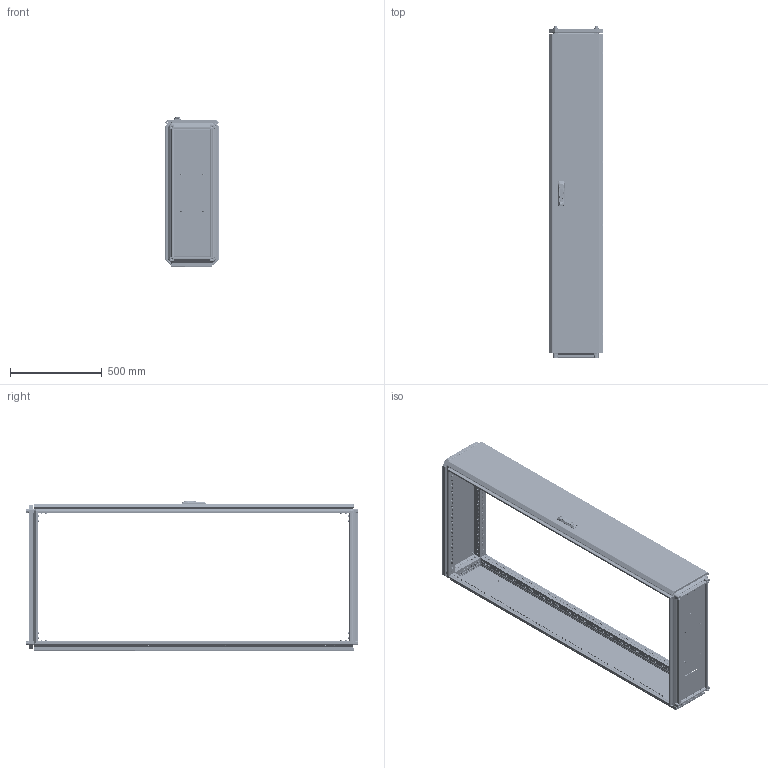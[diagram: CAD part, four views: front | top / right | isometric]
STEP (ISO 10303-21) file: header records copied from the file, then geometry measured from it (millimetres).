
FILE_DESCRIPTION (( 'STEP AP203' ), '1' );
FILE_NAME ('MA1.000.030818.10.00 AleSta1838 Øêàô AleSta 300õ800õ1800.STEP', '2024-08-23T07:23:34', ( '' ), ( '' ), 'SwSTEP 2.0', 'SolidWorks 2021', '' );
FILE_SCHEMA (( 'CONFIG_CONTROL_DESIGN' ));
Length unit declared in the file: millimetre
Products named in the file (50): Áîëò øåñòèãðàííûé Ì5õ12 DIN 933, êëàññ ïðî÷íîñòè 8.8, îöèíêîâàííàÿ ñòàëü; Âèíò ñàìîíàðåçàþùèé ñ ïîòàéíîé ãîëîâêîé Ì5x14 DIN 7500 M TORX, êëàññ ïðî÷íîñòè 8.8, îöèíêîâàííàÿ ñòàëü_Œ5å14; êðåïëåíèå_êðóãëîé_òÿãè_RG1020-1.stp; Âèíò_ðåçüáîâûäàâëèâàþùèé_Ì5õ12_DIN 7500E_00; MA1.200.060620.31.02 Ðåéêà íà äâåðü âåðòèêàëüíàÿ Â = 2000_‚=1800; MA1.101.060620.10.01 Ïîëîòíî êðûøè 600õ600_300x800; MA1.101.060620.20.02 Çàêðûòèå íèæíåé ïàíåëè 600õ600_300x800; Íàâåñêà íà êîðïóñ ïîä êëåïêó; MA1.200.060620.31.01 Ïîëîòíî äâåðè ñïëîøíîé 2000õ600_1800å300; MA1.101.060620.00.00 AleSta-RB66 Êîìïëåêò êðûøà è îñíîâàíèå_  300x800; MA1.101.060620.00.02 Ïðîôèëü ïîïåðå÷íûé ñâàðíîé_03 L=198 (˜=300); MA1.200.060620.11.01 Ïîëîòíî çàäíåé ïàíåëè 2000õ600_1800å300; MA1.000.030818.10.00 AleSta1838 Øêàô AleSta 300õ800õ1800; MA1.100.060620.00.01 Ñîåäèíèòåëü óãëîâîé_00; MA1.200.060620.11.00 Ïàíåëü çàäíÿÿ, äëÿ øêàôîâ AleSta, 2000x600_1800å300; 7380-2 ISO Âèíòû ñ ïîëóêðóãëîé ãîëîâêîé ñ ôëàíöåì ñ âíóòðåííèì øåñòèãðàííèêîì Ì4õ10; Ãàéêà ñàìîêîíòðÿùàÿñÿ ñ íåéëîíîâîé âñòàâêîé Ì6 DIN 985, êëàññ ïðî÷íîñòè 8, îöèíêîâàííàÿ ñòàëü_Œ6; Âèíò ñ âí. øåñòèãðàííèêîì M12 DIN912_•30; MS463-2-3(1); MA1.101.060620.00.02 Ïðîôèëü ïîïåðå÷íûé ñâàðíîé_02 L=698 (˜=800) ; MA1.101.060620.10.00 Êðûøà 600x600_300å800; MA1.200.060620.31.03 Ðåéêà íà äâåðü ãîðèçîíòàëüíàÿ Ø = 600_˜=300; MA1.102.060620.00.01 Ïðîôèëü âåðòèêàëüíûé ñâàðíîé_03 L=1698 (‚=1800); MA1.200.060620.31.05 Óãëîâîé óïîð äâåðíîé òÿãè; ﾇﾀﾊﾋﾅﾏﾊﾀ ﾃﾀﾅﾗﾍﾀﾟ ﾘﾅﾑﾒﾈﾃﾐﾀﾍﾍﾀﾟ ﾑ ﾓﾌﾅﾍﾜﾘﾅﾍﾍﾛﾌ ﾁﾎﾐﾒﾎﾌ M4 X 11 (0.5-2.5 ﾌﾌ) HEX U-S ﾖﾈﾍﾊ; MA1.102.060620.00.00 AleSta-VG2000 Ñòîéêè âåðòèêàëüíûå, Â=2000ìì  (4øò)_  300å800; MA1.200.060620.31.00 Äâåðü ñïëîøíàÿ äëÿ øêàôîâ ALESTA ÂõØ 2000õ600_1800å300; Ïåòëÿ íà äâåðü ï-îáðàçíàÿ; MA1.101.060620.20.01 Ïîëîòíî íèæíåé ïàíåëè 600õ600_300å800; äåðæàòåëü_êðóãëîé_òÿãèRG002-RG1010-2-i-RG1010-3-.stp; MA1.101.060620.20.00 Íèæíÿÿ ïàíåëü 600õ600_300å800; Øàéáà ñòîïîðíàÿ ñ íàðóæíûìè çóáöàìè SCHNORR, òèï VS öèíêîâûå õëîïüÿ Ì6 O6,4 ART 88121_Œ6; MA1.200.060620.31.04 ðèãåëü çàìêà äâåðè; Îñü ïåòëè 4õ52_‚¨­â A.M4x0,5x40 ƒŽ‘’ 11644-75; Øïèëüêà Ì6õ12_˜¯¨«ìª  Œ6å20; Âèíò ðåçüáîâûäàâëèâàþùèé Ì6õ12 DIN 7500E_Œ6å10; Øïèëüêà Ì6õ12_˜¯¨«ìª  Œ6å16; Ïðîáêà ïëàñòèêîâàÿ óíèâåðñàëüíàÿ ïîä îòâåðñòèå 4,5 ìì, ñåðèÿ ST, öâåò áåñöâåòíûé – ST4,5; ﾘ琺矜 01.019 ﾃﾎﾑﾒ11371-78_12; MA1.200.060620.10.00 AleSta-PR206  Ïàíåëü çàäíÿÿ, äëÿ øêàôîâ ALESTA, 2000 x 600_1800å300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
Assembly tree (329 placements, depth 4):
  MA1.000.030818.10.00 AleSta1838 Øêàô AleSta 300õ800õ1800
    MA1.101.060620.00.00 AleSta-RB66 Êîìïëåêò êðûøà è îñíîâàíèå_  300x800
      MA1.101.060620.00.02 Ïðîôèëü ïîïåðå÷íûé ñâàðíîé_02 L=698 (˜=800)   x4
      MA1.101.060620.00.02 Ïðîôèëü ïîïåðå÷íûé ñâàðíîé_03 L=198 (˜=300)  x4
      MA1.101.060620.10.00 Êðûøà 600x600_300å800
        MA1.101.060620.10.01 Ïîëîòíî êðûøè 600õ600_300x800
        Øïèëüêà Ì6õ12_˜¯¨«ìª  Œ6å12  x4
        Óïëîòíèòåëü ïàíåëè íèæíåé_300å800
      MA1.101.060620.20.00 Íèæíÿÿ ïàíåëü 600õ600_300å800
        MA1.101.060620.20.01 Ïîëîòíî íèæíåé ïàíåëè 600õ600_300å800
        ﾇﾀﾊﾋﾅﾏﾊﾀ ﾃﾀﾅﾗﾍﾀﾟ ﾘﾅﾑﾒﾈﾃﾐﾀﾍﾍﾀﾟ ﾑ ﾓﾌﾅﾍﾜﾘﾅﾍﾍﾛﾌ ﾁﾎﾐﾒﾎﾌ M4 X 11 (0.5-2.5 ﾌﾌ) HEX U-S ﾖﾈﾍﾊ  x4
        MA1.101.060620.20.02 Çàêðûòèå íèæíåé ïàíåëè 600õ600_300x800  x2
        7380-2 ISO Âèíòû ñ ïîëóêðóãëîé ãîëîâêîé ñ ôëàíöåì ñ âíóòðåííèì øåñòèãðàííèêîì Ì4õ10  x4
      Âèíò_ðåçüáîâûäàâëèâàþùèé_Ì5õ12_DIN 7500E_Œ5å12  x8
      MA1.100.060620.00.01 Ñîåäèíèòåëü óãëîâîé_00  x8
      Âèíò ñ âí. øåñòèãðàííèêîì M12 DIN912_•30  x4
      Âèíò ðåçüáîâûäàâëèâàþùèé Ì6õ12 DIN 7500E_Œ6å10  x96
      ﾘ琺矜 01.019 ﾃﾎﾑﾒ11371-78_12  x4
      ﾘ琺矜 65ﾃ 019 ﾃﾎﾑﾒ 6402-70_12  x4
      Øàéáà ñòîïîðíàÿ ñ íàðóæíûìè çóáöàìè SCHNORR, òèï VS öèíêîâûå õëîïüÿ Ì6 O6,4 ART 88121_Œ6  x80
    MA1.102.060620.00.00 AleSta-VG2000 Ñòîéêè âåðòèêàëüíûå, Â=2000ìì  (4øò)_  300å800
      MA1.102.060620.00.01 Ïðîôèëü âåðòèêàëüíûé ñâàðíîé_03 L=1698 (‚=1800)  x4
    MA1.200.060620.10.00 AleSta-PR206  Ïàíåëü çàäíÿÿ, äëÿ øêàôîâ ALESTA, 2000 x 600_1800å300
      MA1.200.060620.11.00 Ïàíåëü çàäíÿÿ, äëÿ øêàôîâ AleSta, 2000x600_1800å300
        MA1.200.060620.11.01 Ïîëîòíî çàäíåé ïàíåëè 2000õ600_1800å300
        Óïëîòíèòåëü ïàíåëè íèæíåé_   ‚=1800
        Øïèëüêà Ì6õ12_˜¯¨«ìª  Œ6å12  x4
      Âèíò ñàìîíàðåçàþùèé ñ ïîòàéíîé ãîëîâêîé Ì5x14 DIN 7500 M TORX, êëàññ ïðî÷íîñòè 8.8, îöèíêîâàííàÿ ñòàëü_Œ5å14  x8
    MA1.200.060620.30.00 AleSta-D20M600 Äâåðü ñïëîøíàÿ äëÿ øêàôîâ ALESTA ÂõØ 2000õ600_1800å300
      MA1.200.060620.31.00 Äâåðü ñïëîøíàÿ äëÿ øêàôîâ ALESTA ÂõØ 2000õ600_1800å300
        MA1.200.060620.31.01 Ïîëîòíî äâåðè ñïëîøíîé 2000õ600_1800å300
        Óïëîòíèòåëü ïàíåëè íèæíåé_   ‚=1800
        Øïèëüêà Ì6õ12_˜¯¨«ìª  Œ6å20  x12
        Øïèëüêà Ì6õ12_˜¯¨«ìª  Œ6å16  x4
        Ïåòëÿ íà äâåðü ï-îáðàçíàÿ  x4
      MA1.200.060620.31.03 Ðåéêà íà äâåðü ãîðèçîíòàëüíàÿ Ø = 600_˜=300  x2
      諘蜱齁罻 022 瀁錒瀔隮  x4
      MA1.200.060620.31.02 Ðåéêà íà äâåðü âåðòèêàëüíàÿ Â = 2000_‚=1800  x2
      äåðæàòåëü_êðóãëîé_òÿãèRG002-RG1010-2-i-RG1010-3-.stp  x2
      òÿãà_lg001-2.STEP_‚ =1800  x2
      êðåïëåíèå_êðóãëîé_òÿãè_RG1020-1.stp  x2
      MS463-2-3(1)
      Ãàéêà ñàìîêîíòðÿùàÿñÿ ñ íåéëîíîâîé âñòàâêîé Ì6 DIN 985, êëàññ ïðî÷íîñòè 8, îöèíêîâàííàÿ ñòàëü_Œ6  x12
      Ãàéêà ñàìîêîíòðÿùàÿñÿ ñ íåéëîíîâîé âñòàâêîé Ì6 DIN 985, êëàññ ïðî÷íîñòè 8, îöèíêîâàííàÿ ñòàëü_Œ5  x2
      Áîëò øåñòèãðàííûé Ì5õ12 DIN 933, êëàññ ïðî÷íîñòè 8.8, îöèíêîâàííàÿ ñòàëü  x2
      MA1.200.060620.31.04 ðèãåëü çàìêà äâåðè
      MA1.200.060620.31.05 Óãëîâîé óïîð äâåðíîé òÿãè  x2
      Âèíò_ðåçüáîâûäàâëèâàþùèé_Ì5õ12_DIN 7500E_00  x2
      Íàâåñêà íà êîðïóñ ïîä êëåïêó  x4
      Îñü ïåòëè 4õ52_‚¨­â A.M4x0,5x40 ƒŽ‘’ 11644-75  x4
      Âèíò ñàìîíàðåçàþùèé ñ ïîòàéíîé ãîëîâêîé Ì5x14 DIN 7500 M TORX, êëàññ ïðî÷íîñòè 8.8, îöèíêîâàííàÿ ñòàëü_Œ5å12  x8
  Ïðîáêà ïëàñòèêîâàÿ óíèâåðñàëüíàÿ ïîä îòâåðñòèå 4,5 ìì, ñåðèÿ ST, öâåò áåñöâåòíûé – ST4,5
Bounding box: 292 x 1810.9 x 816.8 mm (x, y, z)
Volume: 6627246.1 mm3; surface area: 7687780 mm2
Topology: 356 solids, 370 shells, 22859 faces, 58810 edges, 36800 vertices
Faces by surface type: plane 13758, cylinder 6468, bspline 869, cone 837, torus 829, sphere 98
Entity records: 241002 total; most frequent: CARTESIAN_POINT 78333, ORIENTED_EDGE 31082, DIRECTION 30552, EDGE_CURVE 15558, AXIS2_PLACEMENT_3D 10490, VERTEX_POINT 9677, VECTOR 9572, LINE 9572
